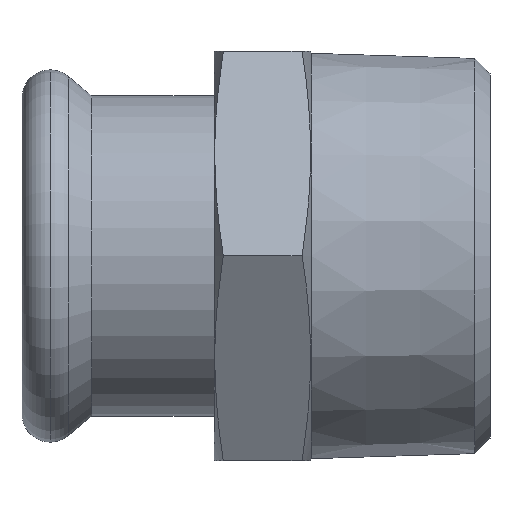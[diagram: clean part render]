
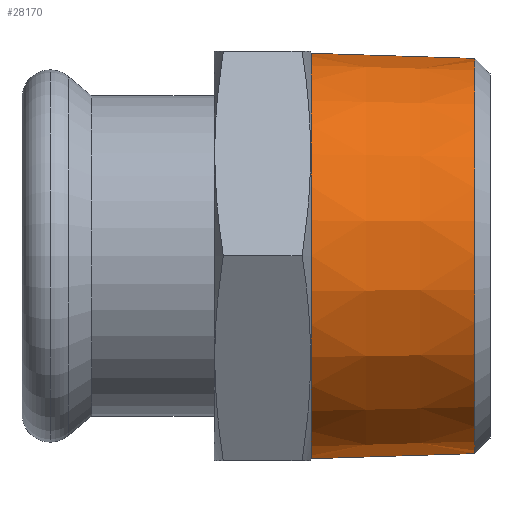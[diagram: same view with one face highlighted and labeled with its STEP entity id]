
A CAD part, top view. The second image highlights one B-rep face of the part: STEP entity #28170.
In plain terms, the highlighted conical face has half-angle 1.79 degrees and reference radius 24.25 mm.
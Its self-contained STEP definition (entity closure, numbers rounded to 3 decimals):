
#10=CARTESIAN_POINT('',(-75.571,-571.484,
0.));
#20=DIRECTION('',(-1.,0.,0.));
#30=DIRECTION('',(0.,-1.,0.));
#40=AXIS2_PLACEMENT_3D('',#10,#20,#30);
#50=CONICAL_SURFACE('',#40,24.25,0.031);
#60=CARTESIAN_POINT('',(-75.571,-547.234,
0.));
#70=DIRECTION('',(-1.,0.031,
0.));
#80=VECTOR('',#70,1.);
#90=LINE('',#60,#80);
#100=CARTESIAN_POINT('',(-55.97,-547.846,
0.));
#110=VERTEX_POINT('',#100);
#120=CARTESIAN_POINT('',(-75.571,-547.234,
0.));
#130=VERTEX_POINT('',#120);
#140=EDGE_CURVE('',#110,#130,#90,.T.);
#160=CARTESIAN_POINT('',(-75.571,-571.484,
0.));
#170=DIRECTION('',(-1.,0.,0.));
#180=DIRECTION('',(0.,-1.,0.));
#190=AXIS2_PLACEMENT_3D('',#160,#170,#180);
#200=CIRCLE('',#190,24.25);
#210=CARTESIAN_POINT('',(-75.571,-595.734,
0.));
#220=VERTEX_POINT('',#210);
#250=CARTESIAN_POINT('',(-75.571,-595.734,
0.));
#260=DIRECTION('',(-1.,-0.031,
0.));
#270=VECTOR('',#260,1.);
#280=LINE('',#250,#270);
#290=CARTESIAN_POINT('',(-55.97,-595.121,
0.));
#300=VERTEX_POINT('',#290);
#310=EDGE_CURVE('',#300,#220,#280,.T.);
#330=CARTESIAN_POINT('',(-55.97,-571.484,
0.));
#340=DIRECTION('',(-1.,0.,0.));
#350=DIRECTION('',(0.,-1.,0.));
#360=AXIS2_PLACEMENT_3D('',#330,#340,#350);
#370=CIRCLE('',#360,23.637);
#12800=EDGE_CURVE('',#220,#130,#200,.T.);
#28100=ORIENTED_EDGE('',*,*,#140,.T.);
#28110=EDGE_CURVE('',#300,#110,#370,.T.);
#28120=ORIENTED_EDGE('',*,*,#28110,.T.);
#28130=ORIENTED_EDGE('',*,*,#310,.F.);
#28140=ORIENTED_EDGE('',*,*,#12800,.F.);
#28150=EDGE_LOOP('',(#28140,#28130,#28120,#28100));
#28160=FACE_OUTER_BOUND('',#28150,.T.);
#28170=ADVANCED_FACE('',(#28160),#50,.T.);
